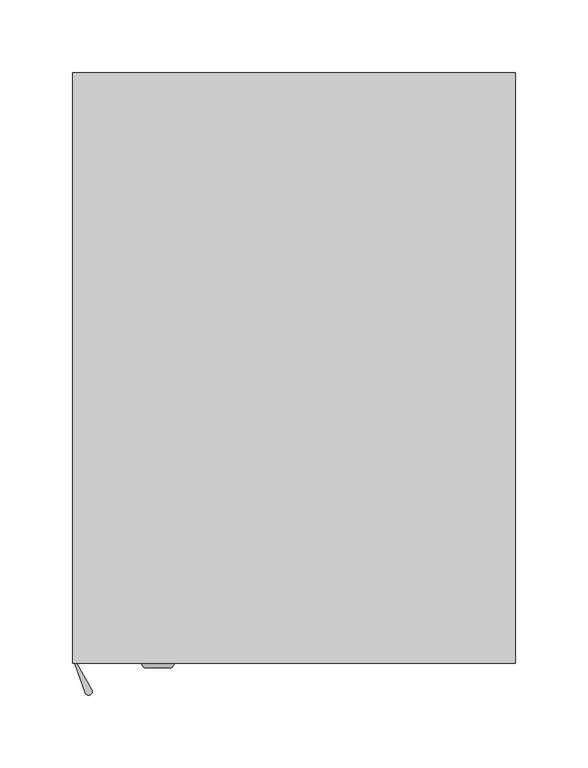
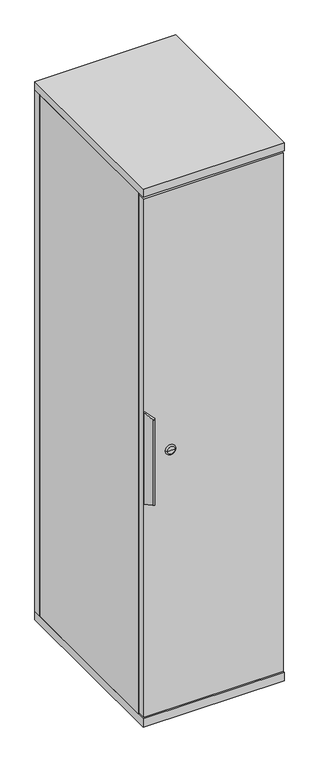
"""IFC4 building model written with IfcOpenShell, lengths in millimetres: furniture geometry, Haworth_BeHold_Wardrobe : Single Door - 12w 16d 49h - Proud Back."""

import ifcopenshell
import ifcopenshell.guid

model = None  # the IFC model being written
_history = None  # IfcOwnerHistory: only IFC2X3 demands one
_inside = {}  # id of a spatial element -> (the spatial element, [elements in it])
_under = {}  # id of a project, library or spatial element -> (it, [spatial elements below it])
_declared = {}  # id of a project -> (the project, [libraries it declares])
_typed = {}  # id of a type object -> (the type object, [elements of that type])
_made_of = {}  # id of a material, layer set ... -> (it, [elements and type objects made of it])


def new_model(schema):
    """Start an empty IFC model of exactly this schema.

    Asked for "IFC4X3", IfcOpenShell would pick the latest addendum, in which some entities
    have other attributes; the version numbers below select the first issue.
    IFC2X3 requires an IfcOwnerHistory on every rooted entity: one is made here for all.
    """
    global model, _history
    if schema == "IFC4X3":
        model = ifcopenshell.file(schema_version=(4, 3, 0, 0))
    else:
        model = ifcopenshell.file(schema=schema)
    _inside.clear()
    _under.clear()
    _declared.clear()
    _typed.clear()
    _made_of.clear()
    _history = None
    if model.schema == "IFC2X3":
        org = make("IfcOrganization", Name="unknown")
        user = make(
            "IfcPersonAndOrganization",
            ThePerson=make("IfcPerson", FamilyName="unknown"),
            TheOrganization=org,
        )
        app = make(
            "IfcApplication",
            ApplicationDeveloper=org,
            Version="unknown",
            ApplicationFullName="unknown",
            ApplicationIdentifier="unknown",
        )
        _history = make(
            "IfcOwnerHistory",
            OwningUser=user,
            OwningApplication=app,
            ChangeAction="ADDED",
            CreationDate=0,
        )
    return model


def make(cls, **values):
    """One entity of the class cls with the attributes given. An attribute that is None is left unset."""
    return model.create_entity(
        cls, **{name: value for name, value in values.items() if value is not None}
    )


def rooted(cls, **values):
    """An entity with a GlobalId (a new one), such as an element, a storey or a relation."""
    return make(cls, GlobalId=ifcopenshell.guid.new(), OwnerHistory=_history, **values)


def si_unit(unit_type, name, prefix=None):
    """IfcSIUnit, for example si_unit("LENGTHUNIT", "METRE", prefix="MILLI")."""
    return make("IfcSIUnit", UnitType=unit_type, Prefix=prefix, Name=name)


def assignment(units):
    """IfcUnitAssignment: the units of a project."""
    return None if units is None else make("IfcUnitAssignment", Units=units)


def point(xyz):
    """IfcCartesianPoint."""
    return None if xyz is None else make("IfcCartesianPoint", Coordinates=xyz)


def direction(xyz):
    """IfcDirection."""
    return None if xyz is None else make("IfcDirection", DirectionRatios=xyz)


def frame(location, z_axis=None, x_axis=None):
    """IfcAxis2Placement3D, a coordinate frame: its origin and axes. An axis left out is left unset."""
    return make(
        "IfcAxis2Placement3D",
        Location=point(location),
        Axis=direction(z_axis),
        RefDirection=direction(x_axis),
    )


def origin():
    """The frame at (0, 0, 0) with its axes left unset."""
    return frame((0.0, 0.0, 0.0))


def place(relative_to, where):
    """IfcLocalPlacement: puts the frame where relative to a parent placement (None: the world)."""
    return make(
        "IfcLocalPlacement", PlacementRelTo=relative_to, RelativePlacement=where
    )


def context(
    kind, dimensions, precision=None, world=None, true_north=None, identifier=None
):
    """IfcGeometricRepresentationContext, for example the 3D "Model" context."""
    return make(
        "IfcGeometricRepresentationContext",
        ContextIdentifier=identifier,
        ContextType=kind,
        CoordinateSpaceDimension=dimensions,
        Precision=precision,
        WorldCoordinateSystem=world,
        TrueNorth=true_north,
    )


def project(units=None, contexts=None):
    """IfcProject with its units and contexts."""
    return rooted(
        "IfcProject",
        Name="project",
        RepresentationContexts=contexts,
        UnitsInContext=assignment(units),
    )


def spatial(cls, under=None, at=None, **own):
    """A site, building, storey or space (cls), placed at a placement, below another one or the project."""
    s = rooted(cls, ObjectPlacement=at, **own)
    if under is not None:
        _under.setdefault(under.id(), (under, []))[1].append(s)
    return s


def polyline(points):
    """IfcPolyline through the points."""
    return make("IfcPolyline", Points=[point(p) for p in points])


def circle_curve(where, radius):
    """IfcCircle in the frame where."""
    return make("IfcCircle", Position=where, Radius=radius)


def ellipse_curve(where, semi_axis1, semi_axis2):
    """IfcEllipse in the frame where."""
    return make(
        "IfcEllipse", Position=where, SemiAxis1=semi_axis1, SemiAxis2=semi_axis2
    )


def trimmed(basis, trim1, trim2, sense, master):
    """IfcTrimmedCurve: the piece of a basis curve between two trims."""
    return make(
        "IfcTrimmedCurve",
        BasisCurve=basis,
        Trim1=trim1,
        Trim2=trim2,
        SenseAgreement=sense,
        MasterRepresentation=master,
    )


def outline(outer, holes=None, kind="AREA"):
    """IfcArbitraryClosedProfileDef: a profile drawn as a closed curve; with holes, ...WithVoids."""
    if holes is None:
        return make("IfcArbitraryClosedProfileDef", ProfileType=kind, OuterCurve=outer)
    return make(
        "IfcArbitraryProfileDefWithVoids",
        ProfileType=kind,
        OuterCurve=outer,
        InnerCurves=holes,
    )


def extrude(swept, where, along, depth):
    """IfcExtrudedAreaSolid: the profile swept, set in the frame where, extruded along a direction by depth."""
    return make(
        "IfcExtrudedAreaSolid",
        SweptArea=swept,
        Position=where,
        ExtrudedDirection=direction(along),
        Depth=depth,
    )


def shape(context_of_items, identifier, shape_type, items):
    """IfcShapeRepresentation: the items that make up one representation, for example the "Body"."""
    return make(
        "IfcShapeRepresentation",
        ContextOfItems=context_of_items,
        RepresentationIdentifier=identifier,
        RepresentationType=shape_type,
        Items=items,
    )


def source(mapping_origin, context_of_items, identifier, shape_type, items):
    """IfcRepresentationMap: a shape defined once, which mapped items show again and again."""
    return make(
        "IfcRepresentationMap",
        MappingOrigin=mapping_origin,
        MappedRepresentation=shape(context_of_items, identifier, shape_type, items),
    )


def transform(
    local_origin,
    x_axis=None,
    y_axis=None,
    z_axis=None,
    scale=None,
    scale2=None,
    scale3=None,
    uniform=True,
):
    """IfcCartesianTransformationOperator3D, or its non-uniform kind. x_axis, y_axis, z_axis: its Axis1, 2, 3."""
    if uniform:
        return make(
            "IfcCartesianTransformationOperator3D",
            Axis1=direction(x_axis),
            Axis2=direction(y_axis),
            LocalOrigin=point(local_origin),
            Scale=scale,
            Axis3=direction(z_axis),
        )
    return make(
        "IfcCartesianTransformationOperator3DnonUniform",
        Axis1=direction(x_axis),
        Axis2=direction(y_axis),
        LocalOrigin=point(local_origin),
        Scale=scale,
        Axis3=direction(z_axis),
        Scale2=scale2,
        Scale3=scale3,
    )


def mapped(mapping_source, mapping_target):
    """IfcMappedItem: shows the shape of a source again, moved by a transform."""
    return make(
        "IfcMappedItem", MappingSource=mapping_source, MappingTarget=mapping_target
    )


def made_of(thing, what):
    """Note that an element or type object is made of a material, layer set ...; save() writes the relation."""
    if what is not None:
        _made_of.setdefault(what.id(), (what, []))[1].append(thing)
    return thing


def element(
    cls,
    number,
    at=None,
    inside=None,
    cuts=None,
    type_object=None,
    material=None,
    context=None,
    identifier="Body",
    shape_type=None,
    held_by="IfcProductDefinitionShape",
    body=None,
    shapes=None,
    **own,
):
    """One element of the class cls, such as IfcWall. Its Tag is "e" and its number.

    at: its placement. inside: the storey or other place that contains it. cuts: it is an
    opening in that element (IfcRelVoidsElement). A single representation is given by context,
    identifier, shape_type and body (its items); several are given by shapes. held_by: the class
    of the entity that holds the representations. save() writes the other relations.
    """
    e = rooted(cls, Tag="e%d" % number, ObjectPlacement=at, **own)
    if body is not None:
        shapes = [shape(context, identifier, shape_type, body)]
    if shapes is not None:
        e.Representation = make(held_by, Representations=shapes)
    if inside is not None:
        _inside.setdefault(inside.id(), (inside, []))[1].append(e)
    if cuts is not None:
        rooted(
            "IfcRelVoidsElement", RelatingBuildingElement=cuts, RelatedOpeningElement=e
        )
    if type_object is not None:
        _typed.setdefault(type_object.id(), (type_object, []))[1].append(e)
    return made_of(e, material)


def aggregate(whole, parts):
    """IfcRelAggregates: a whole, such as a stair, and the parts it consists of."""
    return rooted("IfcRelAggregates", RelatingObject=whole, RelatedObjects=parts)


def save(model, path):
    """Write the relations noted so far, then the file.

    IfcRelAggregates (storeys below a building ...), IfcRelContainedInSpatialStructure (elements
    in a storey), IfcRelDefinesByType, IfcRelAssociatesMaterial and IfcRelDeclares: one each for
    every whole, place, type object, material and project.
    """
    for whole, parts in _under.values():
        aggregate(whole, parts)
    for where, things in _inside.values():
        rooted(
            "IfcRelContainedInSpatialStructure",
            RelatedElements=things,
            RelatingStructure=where,
        )
    for kind, things in _typed.values():
        rooted("IfcRelDefinesByType", RelatedObjects=things, RelatingType=kind)
    for what, things in _made_of.values():
        rooted("IfcRelAssociatesMaterial", RelatedObjects=things, RelatingMaterial=what)
    for by, libraries in _declared.values():
        rooted("IfcRelDeclares", RelatingContext=by, RelatedDefinitions=libraries)
    model.write(path)


def plane_surface(at):
    """IfcPlane: the flat surface through the origin of the frame at, square to its z axis."""
    return make("IfcPlane", Position=at)


def cylinder_surface(at, radius):
    """IfcCylindricalSurface: all points at the distance radius from the z axis of the frame at."""
    return make("IfcCylindricalSurface", Position=at, Radius=radius)


def revolved_surface(curve, axis_point, axis_direction):
    """IfcSurfaceOfRevolution: the curve turned about the line through axis_point along axis_direction."""
    return make(
        "IfcSurfaceOfRevolution",
        SweptCurve=make("IfcArbitraryOpenProfileDef", ProfileType="CURVE", Curve=curve),
        AxisPosition=make("IfcAxis1Placement", Location=point(axis_point), Axis=direction(axis_direction)),
    )


def advanced_brep(points, edges, surfaces, faces):
    """IfcAdvancedBrep: a solid bounded by faces that lie on surfaces and meet in shared edges.

    An edge is (start, end): straight between two places in points (the first is 0);
    or (start, end, curve); or (start, end, curve, False) where it runs against its curve.
    A face is (place in surfaces, loops), or (place, loops, False) where it looks against
    its surface's normal. A loop lists edges by number (the first is 1), with a minus sign
    where the edge is run from its end to its start. The first loop is the outer one.
    """
    corners = [point(p) for p in points]
    vertices = [make("IfcVertexPoint", VertexGeometry=c) for c in corners]
    made = []
    for start, end, *more in edges:
        made.append(
            make(
                "IfcEdgeCurve",
                EdgeStart=vertices[start],
                EdgeEnd=vertices[end],
                EdgeGeometry=more[0] if more else make("IfcPolyline", Points=[corners[start], corners[end]]),
                SameSense=more[1] if len(more) > 1 else True,
            )
        )
    hull = []
    for where, loops, *sense in faces:
        bounds = []
        for j, loop in enumerate(loops):
            ring = [make("IfcOrientedEdge", EdgeElement=made[abs(k) - 1], Orientation=k > 0) for k in loop]
            bounds.append(
                make(
                    "IfcFaceOuterBound" if j == 0 else "IfcFaceBound",
                    Bound=make("IfcEdgeLoop", EdgeList=ring),
                    Orientation=True,
                )
            )
        hull.append(make("IfcAdvancedFace", Bounds=bounds, FaceSurface=surfaces[where], SameSense=sense[0] if sense else True))
    return make("IfcAdvancedBrep", Outer=make("IfcClosedShell", CfsFaces=hull))


def furniture_4580f1de(model_context):
    return source(origin(), model_context, "Body", "SolidModel", [
        advanced_brep(
        [(-306.2746476, -571.5, 733.7226562), (-306.2746476, -571.5, 522.5851562), (-307.6716553, -571.5, 522.5851562), (-307.6716553, -571.5, 733.7226562), (-300.7543854, -591.7137158, 529.9423471), (-300.7543854, -591.7137158, 726.3654654), (-296.1317146, -589.6513306, 529.1917003), (-296.1317146, -589.6513306, 727.1161122)],
        [
            (0, 1),
            (1, 2),
            (2, 3),
            (3, 0),
            (2, 4),
            (4, 5),
            (5, 3),
            (4, 6, ellipse_curve(frame((-298.3500652, -590.8909412, 529.6428817), z_axis=(0.0, 0.3420201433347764, 0.9396926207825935), x_axis=(0.0, -0.9396926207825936, 0.34202014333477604)), 2.704292, 2.5412032)),
            (6, 7),
            (7, 5, ellipse_curve(frame((-298.3500652, -590.8909412, 726.6649308), z_axis=(0.0, 0.34202014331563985, -0.9396926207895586), x_axis=(0.0, 0.9396926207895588, 0.3420201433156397)), 2.704292, 2.5412032)),
            (0, 7),
            (6, 1),
        ],
        [
            plane_surface(frame((-306.2746476, -571.5, 733.7226562), z_axis=(0.0, 1.0, 0.0), x_axis=(0.0, 0.0, -1.0))),
            plane_surface(frame((-307.6716553, -571.5, 733.7226562), z_axis=(-0.946134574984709, -0.3237736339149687, 0.0), x_axis=(0.0, 0.0, -1.0))),
            cylinder_surface(frame((-298.3500652, -590.8909412, 733.7226562), z_axis=(0.0, 0.0, 1.0), x_axis=(0.0, -1.0, 0.0)), 2.5412032),
            plane_surface(frame((-296.1317146, -589.6513306, 733.7226562), z_axis=(0.8729528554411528, 0.4878045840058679, 0.0), x_axis=(0.0, 0.0, -1.0))),
            plane_surface(frame((-320.3716553, -571.5, 733.7226562), z_axis=(0.0, -0.34202014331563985, 0.9396926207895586), x_axis=(1.0, 0.0, 0.0))),
            plane_surface(frame((-320.3716553, -597.9795, 532.2229061), z_axis=(0.0, -0.3420201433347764, -0.9396926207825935), x_axis=(1.0, 0.0, 0.0))),
        ],
        [
            (0, [[1, 2, 3, 4]]),
            (1, [[-3, 5, 6, 7]]),
            (2, [[-6, 8, 9, 10]]),
            (3, [[-1, 11, -9, 12]]),
            (4, [[-4, -7, -10, -11]]),
            (5, [[-2, -12, -8, -5]]),
        ],
    ),
        advanced_brep(
        [(-258.4584311, -574.6753876, 628.1539062), (-242.5848796, -574.6753876, 628.1539062), (-250.5216553, -574.6753876, 628.1539062), (-261.6349305, -571.5, 628.1539062), (-239.4083802, -571.5, 628.1539062), (-250.5216553, -571.5, 628.1539062)],
        [
            (0, 1, circle_curve(frame((-250.5216553, -574.6753876, 628.1539062), z_axis=(0.0, -1.0, 0.0), x_axis=(1.0, 0.0, 0.0)), 7.9367757)),
            (1, 2),
            (2, 0),
            (1, 0, circle_curve(frame((-250.5216553, -574.6753876, 628.1539062), z_axis=(0.0, -1.0, 0.0), x_axis=(1.0, 0.0, 0.0)), 7.9367757)),
            (3, 4, circle_curve(frame((-250.5216553, -571.5, 628.1539062), z_axis=(0.0, -1.0, 0.0), x_axis=(1.0, 0.0, 0.0)), 11.1132751)),
            (4, 1, circle_curve(frame((-242.5848796, -571.498888, 628.1539062), z_axis=(0.0, 0.0, -1.0), x_axis=(0.0, -1.0, 0.0)), 3.1764996)),
            (0, 3, circle_curve(frame((-258.4584311, -571.498888, 628.1539062), z_axis=(0.0, 0.0, -1.0), x_axis=(0.0, -1.0, 0.0)), 3.1764996)),
            (4, 3, circle_curve(frame((-250.5216553, -571.5, 628.1539062), z_axis=(0.0, -1.0, 0.0), x_axis=(1.0, 0.0, 0.0)), 11.1132751)),
            (5, 4),
            (3, 5),
        ],
        [
            plane_surface(frame((-250.5216553, -574.6753876, 628.1539062), z_axis=(0.0, -1.0, 0.0), x_axis=(1.0, 0.0, 0.0))),
            revolved_surface(trimmed(ellipse_curve(frame((-242.5848796, -571.498888, 628.1539062), z_axis=(0.0, 0.0, 1.0), x_axis=(0.0, -1.0, 0.0)), 3.1764996, 3.1764996), [point((-242.5848796, -574.6753876, 628.1539062))], [point((-239.4083802, -571.5, 628.1539062))], True, "CARTESIAN"), (-250.5216553, -533.4, 628.1539062), (0.0, 1.0, 0.0)),
            plane_surface(frame((-250.5216553, -571.5, 628.1539062), z_axis=(0.0, 1.0, 0.0), x_axis=(1.0, 0.0, 0.0))),
        ],
        [
            (0, [[1, 2, 3]]),
            (0, [[4, -3, -2]]),
            (1, [[5, 6, -1, 7]]),
            (1, [[8, -7, -4, -6]]),
            (2, [[9, -5, 10]]),
            (2, [[-10, -8, -9]]),
        ],
    ),
        extrude(outline(polyline([(-6.0466553, -571.5), (-307.6716553, -571.5), (-307.6716553, -552.45), (-6.0466553, -552.45), (-6.0466553, -571.5)])), frame((0.0, 0.0, 34.925), z_axis=(0.0, 0.0, 1.0), x_axis=(1.0, 0.0, 0.0)), (0.0, 0.0, 1.0), 1186.4578125),
        extrude(outline(polyline([(-23.5091553, -184.15), (-23.5091553, -552.45), (-290.2091553, -552.45), (-290.2091553, -184.15), (-23.5091553, -184.15)])), frame((0.0, 0.0, 242.8875), z_axis=(0.0, 0.0, 1.0), x_axis=(1.0, 0.0, 0.0)), (0.0, 0.0, 1.0), 19.05),
        extrude(outline(polyline([(-4.4591553, -165.1), (-4.4591553, -571.5), (-309.2591553, -571.5), (-309.2591553, -165.1), (-4.4591553, -165.1)])), frame((0.0, 0.0, 1225.55), z_axis=(0.0, 0.0, 1.0), x_axis=(1.0, 0.0, 0.0)), (0.0, 0.0, 1.0), 19.05),
        extrude(outline(polyline([(-4.4591553, -184.15), (-309.2591553, -184.15), (-309.2591553, -165.1), (-4.4591553, -165.1), (-4.4591553, -184.15)])), frame((0.0, 0.0, 31.75), z_axis=(0.0, 0.0, 1.0), x_axis=(1.0, 0.0, 0.0)), (0.0, 0.0, 1.0), 1193.8),
        extrude(outline(polyline([(-4.4591553, -184.15), (-4.4591553, -552.45), (-23.5091553, -552.45), (-23.5091553, -184.15), (-4.4591553, -184.15)])), frame((0.0, 0.0, 31.75), z_axis=(0.0, 0.0, 1.0), x_axis=(1.0, 0.0, 0.0)), (0.0, 0.0, 1.0), 1193.8),
        extrude(outline(polyline([(-309.2591553, -552.45), (-309.2591553, -184.15), (-290.2091553, -184.15), (-290.2091553, -552.45), (-309.2591553, -552.45)])), frame((0.0, 0.0, 31.75), z_axis=(0.0, 0.0, 1.0), x_axis=(1.0, 0.0, 0.0)), (0.0, 0.0, 1.0), 1193.8),
        extrude(outline(polyline([(-4.4591553, -165.1), (-4.4591553, -571.5), (-309.2591553, -571.5), (-309.2591553, -165.1), (-4.4591553, -165.1)])), frame((0.0, 0.0, 12.7), z_axis=(0.0, 0.0, 1.0), x_axis=(1.0, 0.0, 0.0)), (0.0, 0.0, 1.0), 19.05),
    ])


if __name__ == "__main__":
    model = new_model("IFC4")
    model_context = context("Model", 3, world=origin())
    ifc_project = project(units=[si_unit("LENGTHUNIT", "METRE", prefix="MILLI")], contexts=[model_context])
    site = spatial("IfcSite", under=ifc_project)
    building = spatial("IfcBuilding", under=site)
    placement = place(None, origin())
    furniture_shape = furniture_4580f1de(model_context)
    element("IfcFurniture", 1, ObjectType="Haworth_BeHold_Wardrobe : Single Door - 12w 16d 49h - Proud Back", at=placement, inside=building, context=model_context, shape_type="MappedRepresentation", body=[
        mapped(furniture_shape, transform((0.0, 0.0, 0.0), x_axis=(1.0, 0.0, 0.0), y_axis=(0.0, 1.0, 0.0), z_axis=(0.0, 0.0, 1.0))),
    ])
    save(model, "model.ifc")
